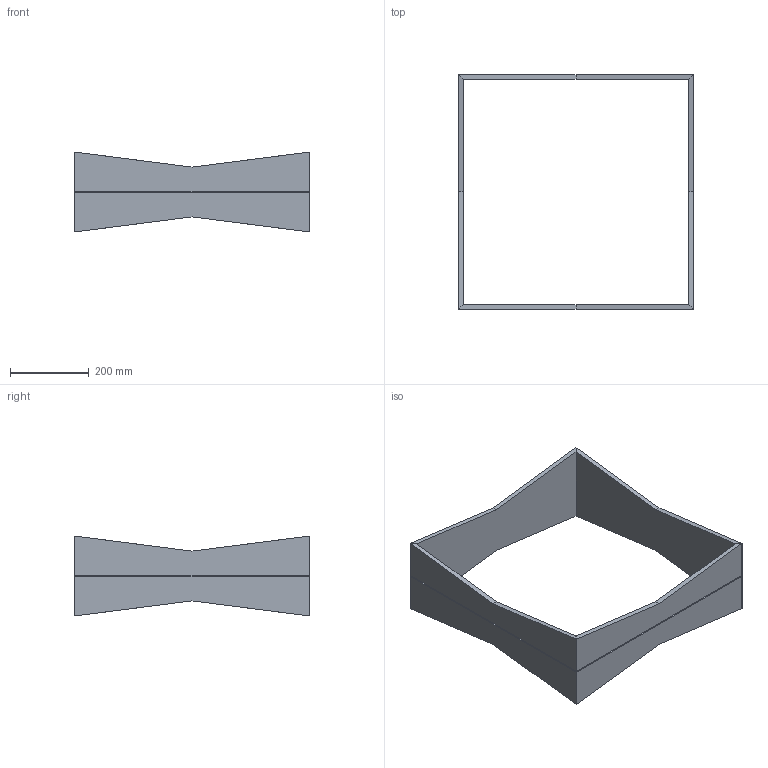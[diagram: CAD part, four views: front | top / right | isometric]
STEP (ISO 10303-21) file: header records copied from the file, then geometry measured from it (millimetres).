
FILE_DESCRIPTION(/* description */ (''),/* implementation_level */ '2;1');
FILE_NAME(/* name */ 'Profile_2',/* time_stamp */ '2026-07-07T12:50:41-05:00',/* author */ (''),/* organization */ (''),/* preprocessor_version */ 'ST-DEVELOPER v19.2',/* originating_system */ 'Rhino 8.32',/* authorisation */ '');
FILE_SCHEMA (('CONFIG_CONTROL_DESIGN'));
Length unit declared in the file: inch
Products named in the file (1): Document
Bounding box: 596.9 x 596.9 x 203.2 mm (x, y, z)
Volume: 4568467.5 mm3; surface area: 878533.4 mm2
Topology: 4 solids, 4 shells, 48 faces, 120 edges, 80 vertices
Faces by surface type: plane 48
Entity records: 1350 total; most frequent: CARTESIAN_POINT 402, ORIENTED_EDGE 240, EDGE_CURVE 120, B_SPLINE_CURVE_WITH_KNOTS 120, VERTEX_POINT 80, DIRECTION 52, AXIS2_PLACEMENT_3D 50, ADVANCED_FACE 48
